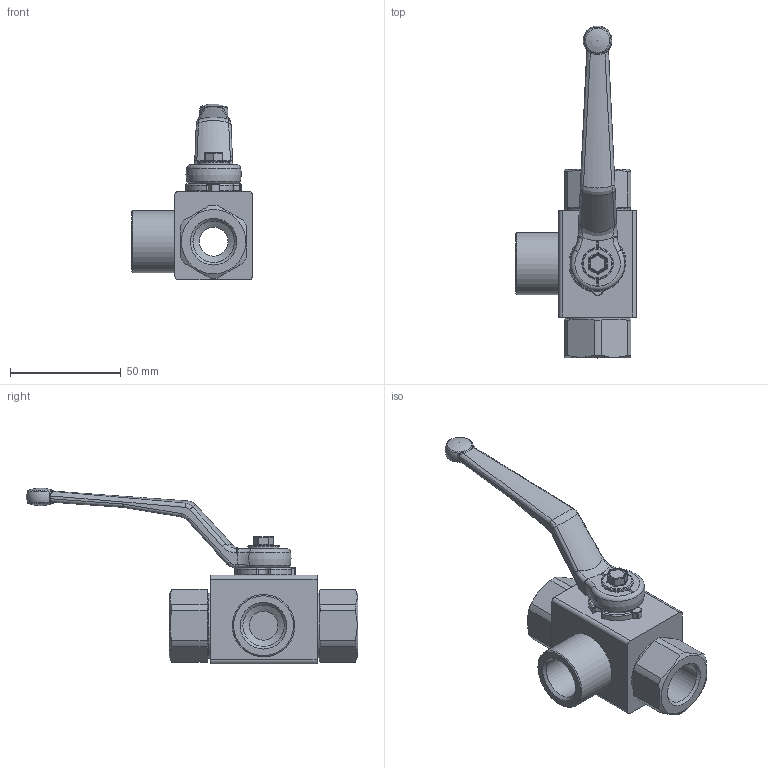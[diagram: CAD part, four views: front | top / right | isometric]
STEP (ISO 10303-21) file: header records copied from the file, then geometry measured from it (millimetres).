
FILE_DESCRIPTION( ( 'Unknown' ), '1' );
FILE_NAME( 'H:/PISTER/3D-MODELLE/BK3 stp/BK3 DN13 G1_2.stp', 'Unknown', ( 'Unknown' ), ( 'Unknown' ), 'PSStep 14.0', 'Unknown', ' ' );
FILE_SCHEMA( ( 'AUTOMOTIVE_DESIGN { 1 0 10303 214 1 1 1 1 }' ) );
Length unit declared in the file: millimetre
Products named in the file (10): Assem1; 03-013-001-oa3; 04-013-128-oa4; 06-013-102-oa9; 09-09-002; 58-28740-07-oa10; Griff_SW9; 58-0933-133; 01-013-026-oa11; 04-013-069-oa12
Assembly tree (9 placements, depth 2):
  Assem1
    03-013-001-oa3
    04-013-128-oa4
    06-013-102-oa9
    09-09-002
    58-28740-07-oa10
    Griff_SW9
    58-0933-133
    01-013-026-oa11
    04-013-069-oa12
Bounding box: 54.5 x 149.5 x 79.3 mm (x, y, z)
Volume: 47996.7 mm3; surface area: 35410.7 mm2
Topology: 9 solids, 9 shells, 358 faces, 889 edges, 535 vertices
Faces by surface type: cylinder 127, plane 113, bspline 42, torus 37, sphere 20, cone 19
Full cylindrical faces by diameter (mm): 4.2 x1, 4.98 x1, 5 x1, 13 x2, 14 x2, 14.3 x1, 18.63 x2, 18.631 x1, 18.9 x1, 27 x3, 28 x1, 28.1 x1, 29.5 x2, 30 x2
Entity records: 14834 total; most frequent: CARTESIAN_POINT 3863, DIRECTION 1715, ORIENTED_EDGE 1580, EDGE_CURVE 790, AXIS2_PLACEMENT_3D 697, VERTEX_POINT 506, EDGE_LOOP 434, FACE_OUTER_BOUND 388
